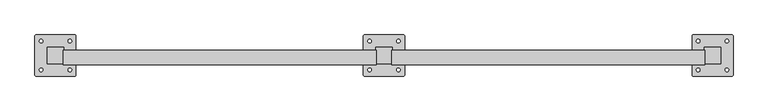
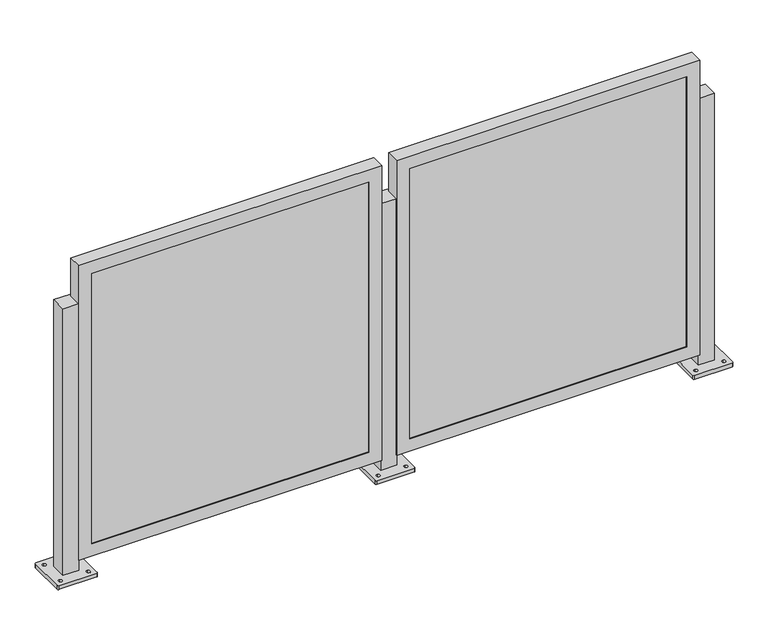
"""IFC4 building model written with IfcOpenShell, lengths in millimetres: railing geometry."""

from ifc_helpers import new_model, si_unit, frame, origin, place, context, project, spatial, polyline, circle_curve, outline, extrude, faceted_brep, source, transform, mapped, element, save
from ifc_brep_helpers import plane_surface, cylinder_surface, revolved_surface, advanced_brep


def railing_9c9bc759(model_context):
    return source(origin(), model_context, "Body", "SolidModel", [
        advanced_brep(
        [(-11292.7876539, 7781.5792637, 914.4), (-11292.7876539, 7730.7792637, 914.4), (-11241.9876539, 7730.7792637, 914.4), (-11241.9876539, 7781.5792637, 914.4), (-11330.887654, 7695.8543047, 0.0), (-11330.887654, 7816.5042227, 0.0), (-11327.7126259, 7819.6792508, 0.0), (-11207.0626819, 7819.6792508, 0.0), (-11203.8876537, 7816.5042227, 0.0), (-11203.8876537, 7695.8543047, 0.0), (-11207.0626819, 7692.6792766, 0.0), (-11327.7126259, 7692.6792766, 0.0), (-11311.8376414, 7706.173009, 0.0), (-11311.8376414, 7717.2855215, 0.0), (-11311.8376523, 7795.0730134, 0.0), (-11311.8376523, 7806.185495, 0.0), (-11222.9376404, 7706.1730106, 0.0), (-11222.9376404, 7717.2855212, 0.0), (-11222.9376514, 7795.073015, 0.0), (-11222.9376514, 7806.1854948, 0.0), (-11292.7876539, 7781.5792637, 12.7), (-11292.7876539, 7730.7792637, 12.7), (-11241.9876539, 7730.7792637, 12.7), (-11241.9876539, 7781.5792637, 12.7), (-11330.887654, 7695.8543047, 12.7), (-11327.7126259, 7692.6792766, 12.7), (-11207.0626819, 7692.6792766, 12.7), (-11203.8876537, 7695.8543047, 12.7), (-11203.8876537, 7816.5042227, 12.7), (-11207.0626819, 7819.6792508, 12.7), (-11327.7126259, 7819.6792508, 12.7), (-11330.887654, 7816.5042227, 12.7), (-11311.8376414, 7706.173009, 12.7), (-11311.8376414, 7717.2855215, 12.7), (-11311.8376523, 7795.0730134, 12.7), (-11311.8376523, 7806.185495, 12.7), (-11222.9376404, 7706.1730106, 12.7), (-11222.9376404, 7717.2855212, 12.7), (-11222.9376514, 7795.073015, 12.7), (-11222.9376514, 7806.1854948, 12.7)],
        [
            (0, 1),
            (1, 2),
            (2, 3),
            (3, 0),
            (4, 5),
            (5, 6, circle_curve(frame((-11327.7126259, 7816.5042227, 0.0), z_axis=(0.0, 0.0, -1.0), x_axis=(0.0, 1.0, 0.0)), 3.1750282)),
            (6, 7),
            (7, 8, circle_curve(frame((-11207.0626819, 7816.5042227, 0.0), z_axis=(0.0, 0.0, -1.0), x_axis=(0.0, 1.0, 0.0)), 3.1750282)),
            (8, 9),
            (9, 10, circle_curve(frame((-11207.0626819, 7695.8543047, 0.0), z_axis=(0.0, 0.0, -1.0), x_axis=(0.0, 1.0, 0.0)), 3.1750282)),
            (10, 11),
            (11, 4, circle_curve(frame((-11327.7126259, 7695.8543047, 0.0), z_axis=(0.0, 0.0, -1.0), x_axis=(0.0, 1.0, 0.0)), 3.1750282)),
            (12, 13, circle_curve(frame((-11311.8376414, 7711.7292653, 0.0), z_axis=(0.0, 0.0, 1.0), x_axis=(0.0, 1.0, 0.0)), 5.5562562)),
            (13, 12, circle_curve(frame((-11311.8376414, 7711.7292653, 0.0), z_axis=(0.0, 0.0, 1.0), x_axis=(0.0, 1.0, 0.0)), 5.5562562)),
            (14, 15, circle_curve(frame((-11311.8376523, 7800.6292542, 0.0), z_axis=(0.0, 0.0, 1.0), x_axis=(0.0, 1.0, 0.0)), 5.5562408)),
            (15, 14, circle_curve(frame((-11311.8376523, 7800.6292542, 0.0), z_axis=(0.0, 0.0, 1.0), x_axis=(0.0, 1.0, 0.0)), 5.5562408)),
            (16, 17, circle_curve(frame((-11222.9376404, 7711.7292659, 0.0), z_axis=(0.0, 0.0, 1.0), x_axis=(0.0, 1.0, 0.0)), 5.5562553)),
            (17, 16, circle_curve(frame((-11222.9376404, 7711.7292659, 0.0), z_axis=(0.0, 0.0, 1.0), x_axis=(0.0, 1.0, 0.0)), 5.5562553)),
            (18, 19, circle_curve(frame((-11222.9376514, 7800.6292549, 0.0), z_axis=(0.0, 0.0, 1.0), x_axis=(0.0, 1.0, 0.0)), 5.5562399)),
            (19, 18, circle_curve(frame((-11222.9376514, 7800.6292549, 0.0), z_axis=(0.0, 0.0, 1.0), x_axis=(0.0, 1.0, 0.0)), 5.5562399)),
            (0, 20),
            (20, 21),
            (21, 1),
            (21, 22),
            (22, 2),
            (22, 23),
            (23, 3),
            (23, 20),
            (24, 25, circle_curve(frame((-11327.7126259, 7695.8543047, 12.7), z_axis=(0.0, 0.0, 1.0), x_axis=(0.0, 1.0, 0.0)), 3.1750282)),
            (25, 26),
            (26, 27, circle_curve(frame((-11207.0626819, 7695.8543047, 12.7), z_axis=(0.0, 0.0, 1.0), x_axis=(0.0, 1.0, 0.0)), 3.1750282)),
            (27, 28),
            (28, 29, circle_curve(frame((-11207.0626819, 7816.5042227, 12.7), z_axis=(0.0, 0.0, 1.0), x_axis=(0.0, 1.0, 0.0)), 3.1750282)),
            (29, 30),
            (30, 31, circle_curve(frame((-11327.7126259, 7816.5042227, 12.7), z_axis=(0.0, 0.0, 1.0), x_axis=(0.0, 1.0, 0.0)), 3.1750282)),
            (31, 24),
            (32, 33, circle_curve(frame((-11311.8376414, 7711.7292653, 12.7), z_axis=(0.0, 0.0, -1.0), x_axis=(0.0, 1.0, 0.0)), 5.5562562)),
            (33, 32, circle_curve(frame((-11311.8376414, 7711.7292653, 12.7), z_axis=(0.0, 0.0, -1.0), x_axis=(0.0, 1.0, 0.0)), 5.5562562)),
            (34, 35, circle_curve(frame((-11311.8376523, 7800.6292542, 12.7), z_axis=(0.0, 0.0, -1.0), x_axis=(0.0, 1.0, 0.0)), 5.5562408)),
            (35, 34, circle_curve(frame((-11311.8376523, 7800.6292542, 12.7), z_axis=(0.0, 0.0, -1.0), x_axis=(0.0, 1.0, 0.0)), 5.5562408)),
            (36, 37, circle_curve(frame((-11222.9376404, 7711.7292659, 12.7), z_axis=(0.0, 0.0, -1.0), x_axis=(0.0, 1.0, 0.0)), 5.5562553)),
            (37, 36, circle_curve(frame((-11222.9376404, 7711.7292659, 12.7), z_axis=(0.0, 0.0, -1.0), x_axis=(0.0, 1.0, 0.0)), 5.5562553)),
            (38, 39, circle_curve(frame((-11222.9376514, 7800.6292549, 12.7), z_axis=(0.0, 0.0, -1.0), x_axis=(0.0, 1.0, 0.0)), 5.5562399)),
            (39, 38, circle_curve(frame((-11222.9376514, 7800.6292549, 12.7), z_axis=(0.0, 0.0, -1.0), x_axis=(0.0, 1.0, 0.0)), 5.5562399)),
            (24, 4),
            (11, 25),
            (10, 26),
            (9, 27),
            (8, 28),
            (7, 29),
            (6, 30),
            (5, 31),
            (32, 12),
            (13, 33),
            (34, 14),
            (15, 35),
            (36, 16),
            (17, 37),
            (38, 18),
            (19, 39),
        ],
        [
            plane_surface(frame((-11292.7876539, 7730.7792637, 914.4), z_axis=(0.0, 0.0, 1.0), x_axis=(0.0, -1.0, 0.0))),
            plane_surface(frame((-11292.7876539, 7730.7792637, 0.0), z_axis=(0.0, 0.0, -1.0), x_axis=(0.0, 1.0, 0.0))),
            plane_surface(frame((-11292.7876539, 7781.5792637, 914.4), z_axis=(-1.0, 0.0, 0.0), x_axis=(0.0, 0.0, -1.0))),
            plane_surface(frame((-11292.7876539, 7730.7792637, 914.4), z_axis=(0.0, -1.0, 0.0), x_axis=(0.0, 0.0, -1.0))),
            plane_surface(frame((-11241.9876539, 7730.7792637, 914.4), z_axis=(1.0, 0.0, 0.0), x_axis=(0.0, 0.0, -1.0))),
            plane_surface(frame((-11241.9876539, 7781.5792637, 914.4), z_axis=(0.0, 1.0, 0.0), x_axis=(0.0, 0.0, -1.0))),
            plane_surface(frame((-11327.7126259, 7699.0293329, 12.7), z_axis=(0.0, 0.0, 1.0), x_axis=(-1.0, 0.0, 0.0))),
            cylinder_surface(frame((-11327.7126259, 7695.8543047, 0.0), z_axis=(0.0, 0.0, 1.0), x_axis=(0.0, 1.0, 0.0)), 3.1750282),
            plane_surface(frame((-11327.7126259, 7692.6792766, 12.7), z_axis=(1.1945386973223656e-12, -1.0, 0.0), x_axis=(0.0, 0.0, -1.0))),
            cylinder_surface(frame((-11207.0626819, 7695.8543047, 0.0), z_axis=(0.0, 0.0, 1.0), x_axis=(0.0, 1.0, 0.0)), 3.1750282),
            plane_surface(frame((-11203.8876537, 7695.8543047, 12.7), z_axis=(1.0, 0.0, 0.0), x_axis=(0.0, 0.0, -1.0))),
            cylinder_surface(frame((-11207.0626819, 7816.5042227, 0.0), z_axis=(0.0, 0.0, 1.0), x_axis=(0.0, 1.0, 0.0)), 3.1750282),
            plane_surface(frame((-11207.0626819, 7819.6792508, 12.7), z_axis=(-1.1946088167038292e-12, 1.0, 0.0), x_axis=(0.0, 0.0, -1.0))),
            cylinder_surface(frame((-11327.7126259, 7816.5042227, 0.0), z_axis=(0.0, 0.0, 1.0), x_axis=(0.0, 1.0, 0.0)), 3.1750282),
            plane_surface(frame((-11330.887654, 7816.5042227, 12.7), z_axis=(-1.0, 0.0, 0.0), x_axis=(0.0, 0.0, -1.0))),
            revolved_surface(polyline([(-11311.8376414, 7717.2855215, 0.0), (-11311.8376414, 7717.2855215, 12.7)]), (-11311.8376414, 7711.7292653, 0.0), (0.0, 0.0, -1.0)),
            revolved_surface(polyline([(-11311.8376523, 7806.185495, 0.0), (-11311.8376523, 7806.185495, 12.7)]), (-11311.8376523, 7800.6292542, 0.0), (0.0, 0.0, -1.0)),
            revolved_surface(polyline([(-11222.9376404, 7717.2855212, 0.0), (-11222.9376404, 7717.2855212, 12.7)]), (-11222.9376404, 7711.7292659, 0.0), (0.0, 0.0, -1.0)),
            revolved_surface(polyline([(-11222.9376514, 7806.1854948, 0.0), (-11222.9376514, 7806.1854948, 12.7)]), (-11222.9376514, 7800.6292549, 0.0), (0.0, 0.0, -1.0)),
        ],
        [
            (0, [[1, 2, 3, 4]]),
            (1, [[5, 6, 7, 8, 9, 10, 11, 12], [13, 14], [15, 16], [17, 18], [19, 20]]),
            (2, [[-1, 21, 22, 23]]),
            (3, [[-2, -23, 24, 25]]),
            (4, [[-3, -25, 26, 27]]),
            (5, [[-4, -27, 28, -21]]),
            (6, [[29, 30, 31, 32, 33, 34, 35, 36], [-22, -28, -26, -24], [37, 38], [39, 40], [41, 42], [43, 44]]),
            (7, [[-29, 45, -12, 46]]),
            (8, [[-30, -46, -11, 47]]),
            (9, [[-31, -47, -10, 48]]),
            (10, [[-32, -48, -9, 49]]),
            (11, [[-33, -49, -8, 50]]),
            (12, [[-34, -50, -7, 51]]),
            (13, [[-35, -51, -6, 52]]),
            (14, [[-36, -52, -5, -45]]),
            (15, [[-37, 53, -14, 54]]),
            (15, [[-38, -54, -13, -53]]),
            (16, [[-39, 55, -16, 56]]),
            (16, [[-40, -56, -15, -55]]),
            (17, [[-41, 57, -18, 58]]),
            (17, [[-42, -58, -17, -57]]),
            (18, [[-43, 59, -20, 60]]),
            (18, [[-44, -60, -19, -59]]),
        ],
    ),
        faceted_brep([(-12259.1921073, 7728.0360637, 47.625), (-11290.8171073, 7728.0360637, 47.625), (-11290.8171073, 7728.0360637, 1044.575), (-12259.1921073, 7728.0360637, 1044.575), (-12217.9171073, 7728.0360637, 1003.3), (-11332.0921073, 7728.0360637, 1003.3), (-11332.0921073, 7728.0360637, 88.9), (-12217.9171073, 7728.0360637, 88.9), (-12217.9171073, 7730.7792637, 1003.3), (-12217.9171073, 7730.7792637, 88.9), (-12259.1921073, 7771.9093602, 1044.575), (-12259.1921073, 7771.9093602, 47.625), (-12256.0171073, 7771.9093602, 1041.4), (-12256.0171073, 7730.7792637, 1041.4), (-12256.0171073, 7730.7792637, 50.8), (-12256.0171073, 7771.9093602, 50.8), (-11332.0921073, 7730.7792637, 88.9), (-11290.8171073, 7771.9093602, 47.625), (-11293.9921073, 7730.7792637, 50.8), (-11293.9921073, 7771.9093602, 50.8), (-11332.0921073, 7730.7792637, 1003.3), (-11290.8171073, 7771.9093602, 1044.575), (-11293.9921073, 7730.7792637, 1041.4), (-11293.9921073, 7771.9093602, 1041.4)], [[[0, 1, 2, 3], [4, 5, 6, 7]], [[8, 4, 7, 9]], [[3, 10, 11, 0]], [[12, 13, 14, 15]], [[9, 7, 6, 16]], [[0, 11, 17, 1]], [[15, 14, 18, 19]], [[16, 6, 5, 20]], [[1, 17, 21, 2]], [[19, 18, 22, 23]], [[20, 5, 4, 8]], [[10, 21, 17, 11], [15, 19, 23, 12]], [[2, 21, 10, 3]], [[13, 22, 18, 14], [9, 16, 20, 8]], [[23, 22, 13, 12]]]),
        extrude(outline(polyline([(-12256.0171073, 7740.3042637), (-11293.9921073, 7740.3042637), (-11293.9921073, 7730.7792637), (-12256.0171073, 7730.7792637), (-12256.0171073, 7740.3042637)])), frame((0.0, 0.0, 50.8), z_axis=(0.0, 0.0, 1.0), x_axis=(1.0, 0.0, 0.0)), (0.0, 0.0, 1.0), 990.6),
        advanced_brep(
        [(-12308.7876539, 7781.5792637, 914.4), (-12308.7876539, 7730.7792637, 914.4), (-12257.9876539, 7730.7792637, 914.4), (-12257.9876539, 7781.5792637, 914.4), (-12346.887654, 7695.8543047, 0.0), (-12346.887654, 7816.5042227, 0.0), (-12343.7126259, 7819.6792508, 0.0), (-12223.0626819, 7819.6792508, 0.0), (-12219.8876537, 7816.5042227, 0.0), (-12219.8876537, 7695.8543047, 0.0), (-12223.0626819, 7692.6792766, 0.0), (-12343.7126259, 7692.6792766, 0.0), (-12327.8376414, 7706.173009, 0.0), (-12327.8376414, 7717.2855215, 0.0), (-12327.8376523, 7795.0730134, 0.0), (-12327.8376523, 7806.185495, 0.0), (-12238.9376404, 7706.1730106, 0.0), (-12238.9376404, 7717.2855212, 0.0), (-12238.9376514, 7795.073015, 0.0), (-12238.9376514, 7806.1854948, 0.0), (-12308.7876539, 7781.5792637, 12.7), (-12308.7876539, 7730.7792637, 12.7), (-12257.9876539, 7730.7792637, 12.7), (-12257.9876539, 7781.5792637, 12.7), (-12346.887654, 7695.8543047, 12.7), (-12343.7126259, 7692.6792766, 12.7), (-12223.0626819, 7692.6792766, 12.7), (-12219.8876537, 7695.8543047, 12.7), (-12219.8876537, 7816.5042227, 12.7), (-12223.0626819, 7819.6792508, 12.7), (-12343.7126259, 7819.6792508, 12.7), (-12346.887654, 7816.5042227, 12.7), (-12327.8376414, 7706.173009, 12.7), (-12327.8376414, 7717.2855215, 12.7), (-12327.8376523, 7795.0730134, 12.7), (-12327.8376523, 7806.185495, 12.7), (-12238.9376404, 7706.1730106, 12.7), (-12238.9376404, 7717.2855212, 12.7), (-12238.9376514, 7795.073015, 12.7), (-12238.9376514, 7806.1854948, 12.7)],
        [
            (0, 1),
            (1, 2),
            (2, 3),
            (3, 0),
            (4, 5),
            (5, 6, circle_curve(frame((-12343.7126259, 7816.5042227, 0.0), z_axis=(0.0, 0.0, -1.0), x_axis=(0.0, 1.0, 0.0)), 3.1750282)),
            (6, 7),
            (7, 8, circle_curve(frame((-12223.0626819, 7816.5042227, 0.0), z_axis=(0.0, 0.0, -1.0), x_axis=(0.0, 1.0, 0.0)), 3.1750282)),
            (8, 9),
            (9, 10, circle_curve(frame((-12223.0626819, 7695.8543047, 0.0), z_axis=(0.0, 0.0, -1.0), x_axis=(0.0, 1.0, 0.0)), 3.1750282)),
            (10, 11),
            (11, 4, circle_curve(frame((-12343.7126259, 7695.8543047, 0.0), z_axis=(0.0, 0.0, -1.0), x_axis=(0.0, 1.0, 0.0)), 3.1750282)),
            (12, 13, circle_curve(frame((-12327.8376414, 7711.7292653, 0.0), z_axis=(0.0, 0.0, 1.0), x_axis=(0.0, 1.0, 0.0)), 5.5562562)),
            (13, 12, circle_curve(frame((-12327.8376414, 7711.7292653, 0.0), z_axis=(0.0, 0.0, 1.0), x_axis=(0.0, 1.0, 0.0)), 5.5562562)),
            (14, 15, circle_curve(frame((-12327.8376523, 7800.6292542, 0.0), z_axis=(0.0, 0.0, 1.0), x_axis=(0.0, 1.0, 0.0)), 5.5562408)),
            (15, 14, circle_curve(frame((-12327.8376523, 7800.6292542, 0.0), z_axis=(0.0, 0.0, 1.0), x_axis=(0.0, 1.0, 0.0)), 5.5562408)),
            (16, 17, circle_curve(frame((-12238.9376404, 7711.7292659, 0.0), z_axis=(0.0, 0.0, 1.0), x_axis=(0.0, 1.0, 0.0)), 5.5562553)),
            (17, 16, circle_curve(frame((-12238.9376404, 7711.7292659, 0.0), z_axis=(0.0, 0.0, 1.0), x_axis=(0.0, 1.0, 0.0)), 5.5562553)),
            (18, 19, circle_curve(frame((-12238.9376514, 7800.6292549, 0.0), z_axis=(0.0, 0.0, 1.0), x_axis=(0.0, 1.0, 0.0)), 5.5562399)),
            (19, 18, circle_curve(frame((-12238.9376514, 7800.6292549, 0.0), z_axis=(0.0, 0.0, 1.0), x_axis=(0.0, 1.0, 0.0)), 5.5562399)),
            (0, 20),
            (20, 21),
            (21, 1),
            (21, 22),
            (22, 2),
            (22, 23),
            (23, 3),
            (23, 20),
            (24, 25, circle_curve(frame((-12343.7126259, 7695.8543047, 12.7), z_axis=(0.0, 0.0, 1.0), x_axis=(0.0, 1.0, 0.0)), 3.1750282)),
            (25, 26),
            (26, 27, circle_curve(frame((-12223.0626819, 7695.8543047, 12.7), z_axis=(0.0, 0.0, 1.0), x_axis=(0.0, 1.0, 0.0)), 3.1750282)),
            (27, 28),
            (28, 29, circle_curve(frame((-12223.0626819, 7816.5042227, 12.7), z_axis=(0.0, 0.0, 1.0), x_axis=(0.0, 1.0, 0.0)), 3.1750282)),
            (29, 30),
            (30, 31, circle_curve(frame((-12343.7126259, 7816.5042227, 12.7), z_axis=(0.0, 0.0, 1.0), x_axis=(0.0, 1.0, 0.0)), 3.1750282)),
            (31, 24),
            (32, 33, circle_curve(frame((-12327.8376414, 7711.7292653, 12.7), z_axis=(0.0, 0.0, -1.0), x_axis=(0.0, 1.0, 0.0)), 5.5562562)),
            (33, 32, circle_curve(frame((-12327.8376414, 7711.7292653, 12.7), z_axis=(0.0, 0.0, -1.0), x_axis=(0.0, 1.0, 0.0)), 5.5562562)),
            (34, 35, circle_curve(frame((-12327.8376523, 7800.6292542, 12.7), z_axis=(0.0, 0.0, -1.0), x_axis=(0.0, 1.0, 0.0)), 5.5562408)),
            (35, 34, circle_curve(frame((-12327.8376523, 7800.6292542, 12.7), z_axis=(0.0, 0.0, -1.0), x_axis=(0.0, 1.0, 0.0)), 5.5562408)),
            (36, 37, circle_curve(frame((-12238.9376404, 7711.7292659, 12.7), z_axis=(0.0, 0.0, -1.0), x_axis=(0.0, 1.0, 0.0)), 5.5562553)),
            (37, 36, circle_curve(frame((-12238.9376404, 7711.7292659, 12.7), z_axis=(0.0, 0.0, -1.0), x_axis=(0.0, 1.0, 0.0)), 5.5562553)),
            (38, 39, circle_curve(frame((-12238.9376514, 7800.6292549, 12.7), z_axis=(0.0, 0.0, -1.0), x_axis=(0.0, 1.0, 0.0)), 5.5562399)),
            (39, 38, circle_curve(frame((-12238.9376514, 7800.6292549, 12.7), z_axis=(0.0, 0.0, -1.0), x_axis=(0.0, 1.0, 0.0)), 5.5562399)),
            (24, 4),
            (11, 25),
            (10, 26),
            (9, 27),
            (8, 28),
            (7, 29),
            (6, 30),
            (5, 31),
            (32, 12),
            (13, 33),
            (34, 14),
            (15, 35),
            (36, 16),
            (17, 37),
            (38, 18),
            (19, 39),
        ],
        [
            plane_surface(frame((-12308.7876539, 7730.7792637, 914.4), z_axis=(0.0, 0.0, 1.0), x_axis=(0.0, -1.0, 0.0))),
            plane_surface(frame((-12308.7876539, 7730.7792637, 0.0), z_axis=(0.0, 0.0, -1.0), x_axis=(0.0, 1.0, 0.0))),
            plane_surface(frame((-12308.7876539, 7781.5792637, 914.4), z_axis=(-1.0, 0.0, 0.0), x_axis=(0.0, 0.0, -1.0))),
            plane_surface(frame((-12308.7876539, 7730.7792637, 914.4), z_axis=(0.0, -1.0, 0.0), x_axis=(0.0, 0.0, -1.0))),
            plane_surface(frame((-12257.9876539, 7730.7792637, 914.4), z_axis=(1.0, 0.0, 0.0), x_axis=(0.0, 0.0, -1.0))),
            plane_surface(frame((-12257.9876539, 7781.5792637, 914.4), z_axis=(0.0, 1.0, 0.0), x_axis=(0.0, 0.0, -1.0))),
            plane_surface(frame((-12343.7126259, 7699.0293329, 12.7), z_axis=(0.0, 0.0, 1.0), x_axis=(-1.0, 0.0, 0.0))),
            cylinder_surface(frame((-12343.7126259, 7695.8543047, 0.0), z_axis=(0.0, 0.0, 1.0), x_axis=(0.0, 1.0, 0.0)), 3.1750282),
            plane_surface(frame((-12343.7126259, 7692.6792766, 12.7), z_axis=(1.1945386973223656e-12, -1.0, 0.0), x_axis=(0.0, 0.0, -1.0))),
            cylinder_surface(frame((-12223.0626819, 7695.8543047, 0.0), z_axis=(0.0, 0.0, 1.0), x_axis=(0.0, 1.0, 0.0)), 3.1750282),
            plane_surface(frame((-12219.8876537, 7695.8543047, 12.7), z_axis=(1.0, 0.0, 0.0), x_axis=(0.0, 0.0, -1.0))),
            cylinder_surface(frame((-12223.0626819, 7816.5042227, 0.0), z_axis=(0.0, 0.0, 1.0), x_axis=(0.0, 1.0, 0.0)), 3.1750282),
            plane_surface(frame((-12223.0626819, 7819.6792508, 12.7), z_axis=(-1.1946088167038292e-12, 1.0, 0.0), x_axis=(0.0, 0.0, -1.0))),
            cylinder_surface(frame((-12343.7126259, 7816.5042227, 0.0), z_axis=(0.0, 0.0, 1.0), x_axis=(0.0, 1.0, 0.0)), 3.1750282),
            plane_surface(frame((-12346.887654, 7816.5042227, 12.7), z_axis=(-1.0, 0.0, 0.0), x_axis=(0.0, 0.0, -1.0))),
            revolved_surface(polyline([(-12327.8376414, 7717.2855215, 0.0), (-12327.8376414, 7717.2855215, 12.7)]), (-12327.8376414, 7711.7292653, 0.0), (0.0, 0.0, -1.0)),
            revolved_surface(polyline([(-12327.8376523, 7806.185495, 0.0), (-12327.8376523, 7806.185495, 12.7)]), (-12327.8376523, 7800.6292542, 0.0), (0.0, 0.0, -1.0)),
            revolved_surface(polyline([(-12238.9376404, 7717.2855212, 0.0), (-12238.9376404, 7717.2855212, 12.7)]), (-12238.9376404, 7711.7292659, 0.0), (0.0, 0.0, -1.0)),
            revolved_surface(polyline([(-12238.9376514, 7806.1854948, 0.0), (-12238.9376514, 7806.1854948, 12.7)]), (-12238.9376514, 7800.6292549, 0.0), (0.0, 0.0, -1.0)),
        ],
        [
            (0, [[1, 2, 3, 4]]),
            (1, [[5, 6, 7, 8, 9, 10, 11, 12], [13, 14], [15, 16], [17, 18], [19, 20]]),
            (2, [[-1, 21, 22, 23]]),
            (3, [[-2, -23, 24, 25]]),
            (4, [[-3, -25, 26, 27]]),
            (5, [[-4, -27, 28, -21]]),
            (6, [[29, 30, 31, 32, 33, 34, 35, 36], [-22, -28, -26, -24], [37, 38], [39, 40], [41, 42], [43, 44]]),
            (7, [[-29, 45, -12, 46]]),
            (8, [[-30, -46, -11, 47]]),
            (9, [[-31, -47, -10, 48]]),
            (10, [[-32, -48, -9, 49]]),
            (11, [[-33, -49, -8, 50]]),
            (12, [[-34, -50, -7, 51]]),
            (13, [[-35, -51, -6, 52]]),
            (14, [[-36, -52, -5, -45]]),
            (15, [[-37, 53, -14, 54]]),
            (15, [[-38, -54, -13, -53]]),
            (16, [[-39, 55, -16, 56]]),
            (16, [[-40, -56, -15, -55]]),
            (17, [[-41, 57, -18, 58]]),
            (17, [[-42, -58, -17, -57]]),
            (18, [[-43, 59, -20, 60]]),
            (18, [[-44, -60, -19, -59]]),
        ],
    ),
        faceted_brep([(-13275.1921073, 7728.0360637, 47.625), (-12306.8171073, 7728.0360637, 47.625), (-12306.8171073, 7728.0360637, 1044.575), (-13275.1921073, 7728.0360637, 1044.575), (-13233.9171073, 7728.0360637, 1003.3), (-12348.0921073, 7728.0360637, 1003.3), (-12348.0921073, 7728.0360637, 88.9), (-13233.9171073, 7728.0360637, 88.9), (-13233.9171073, 7730.7792637, 1003.3), (-13233.9171073, 7730.7792637, 88.9), (-13275.1921073, 7771.9093602, 1044.575), (-13275.1921073, 7771.9093602, 47.625), (-13272.0171073, 7771.9093602, 1041.4), (-13272.0171073, 7730.7792637, 1041.4), (-13272.0171073, 7730.7792637, 50.8), (-13272.0171073, 7771.9093602, 50.8), (-12348.0921073, 7730.7792637, 88.9), (-12306.8171073, 7771.9093602, 47.625), (-12309.9921073, 7730.7792637, 50.8), (-12309.9921073, 7771.9093602, 50.8), (-12348.0921073, 7730.7792637, 1003.3), (-12306.8171073, 7771.9093602, 1044.575), (-12309.9921073, 7730.7792637, 1041.4), (-12309.9921073, 7771.9093602, 1041.4)], [[[0, 1, 2, 3], [4, 5, 6, 7]], [[8, 4, 7, 9]], [[3, 10, 11, 0]], [[12, 13, 14, 15]], [[9, 7, 6, 16]], [[0, 11, 17, 1]], [[15, 14, 18, 19]], [[16, 6, 5, 20]], [[1, 17, 21, 2]], [[19, 18, 22, 23]], [[20, 5, 4, 8]], [[10, 21, 17, 11], [15, 19, 23, 12]], [[2, 21, 10, 3]], [[13, 22, 18, 14], [9, 16, 20, 8]], [[23, 22, 13, 12]]]),
        extrude(outline(polyline([(-13272.0171073, 7740.3042637), (-12309.9921073, 7740.3042637), (-12309.9921073, 7730.7792637), (-13272.0171073, 7730.7792637), (-13272.0171073, 7740.3042637)])), frame((0.0, 0.0, 50.8), z_axis=(0.0, 0.0, 1.0), x_axis=(1.0, 0.0, 0.0)), (0.0, 0.0, 1.0), 990.6),
        advanced_brep(
        [(-13324.7876539, 7781.5792637, 914.4), (-13324.7876539, 7730.7792637, 914.4), (-13273.9876539, 7730.7792637, 914.4), (-13273.9876539, 7781.5792637, 914.4), (-13362.887654, 7695.8543047, 0.0), (-13362.887654, 7816.5042227, 0.0), (-13359.7126259, 7819.6792508, 0.0), (-13239.0626819, 7819.6792508, 0.0), (-13235.8876537, 7816.5042227, 0.0), (-13235.8876537, 7695.8543047, 0.0), (-13239.0626819, 7692.6792766, 0.0), (-13359.7126259, 7692.6792766, 0.0), (-13343.8376414, 7706.173009, 0.0), (-13343.8376414, 7717.2855215, 0.0), (-13343.8376523, 7795.0730134, 0.0), (-13343.8376523, 7806.185495, 0.0), (-13254.9376404, 7706.1730106, 0.0), (-13254.9376404, 7717.2855212, 0.0), (-13254.9376514, 7795.073015, 0.0), (-13254.9376514, 7806.1854948, 0.0), (-13324.7876539, 7781.5792637, 12.7), (-13324.7876539, 7730.7792637, 12.7), (-13273.9876539, 7730.7792637, 12.7), (-13273.9876539, 7781.5792637, 12.7), (-13362.887654, 7695.8543047, 12.7), (-13359.7126259, 7692.6792766, 12.7), (-13239.0626819, 7692.6792766, 12.7), (-13235.8876537, 7695.8543047, 12.7), (-13235.8876537, 7816.5042227, 12.7), (-13239.0626819, 7819.6792508, 12.7), (-13359.7126259, 7819.6792508, 12.7), (-13362.887654, 7816.5042227, 12.7), (-13343.8376414, 7706.173009, 12.7), (-13343.8376414, 7717.2855215, 12.7), (-13343.8376523, 7795.0730134, 12.7), (-13343.8376523, 7806.185495, 12.7), (-13254.9376404, 7706.1730106, 12.7), (-13254.9376404, 7717.2855212, 12.7), (-13254.9376514, 7795.073015, 12.7), (-13254.9376514, 7806.1854948, 12.7)],
        [
            (0, 1),
            (1, 2),
            (2, 3),
            (3, 0),
            (4, 5),
            (5, 6, circle_curve(frame((-13359.7126259, 7816.5042227, 0.0), z_axis=(0.0, 0.0, -1.0), x_axis=(0.0, 1.0, 0.0)), 3.1750282)),
            (6, 7),
            (7, 8, circle_curve(frame((-13239.0626819, 7816.5042227, 0.0), z_axis=(0.0, 0.0, -1.0), x_axis=(0.0, 1.0, 0.0)), 3.1750282)),
            (8, 9),
            (9, 10, circle_curve(frame((-13239.0626819, 7695.8543047, 0.0), z_axis=(0.0, 0.0, -1.0), x_axis=(0.0, 1.0, 0.0)), 3.1750282)),
            (10, 11),
            (11, 4, circle_curve(frame((-13359.7126259, 7695.8543047, 0.0), z_axis=(0.0, 0.0, -1.0), x_axis=(0.0, 1.0, 0.0)), 3.1750282)),
            (12, 13, circle_curve(frame((-13343.8376414, 7711.7292653, 0.0), z_axis=(0.0, 0.0, 1.0), x_axis=(0.0, 1.0, 0.0)), 5.5562562)),
            (13, 12, circle_curve(frame((-13343.8376414, 7711.7292653, 0.0), z_axis=(0.0, 0.0, 1.0), x_axis=(0.0, 1.0, 0.0)), 5.5562562)),
            (14, 15, circle_curve(frame((-13343.8376523, 7800.6292542, 0.0), z_axis=(0.0, 0.0, 1.0), x_axis=(0.0, 1.0, 0.0)), 5.5562408)),
            (15, 14, circle_curve(frame((-13343.8376523, 7800.6292542, 0.0), z_axis=(0.0, 0.0, 1.0), x_axis=(0.0, 1.0, 0.0)), 5.5562408)),
            (16, 17, circle_curve(frame((-13254.9376404, 7711.7292659, 0.0), z_axis=(0.0, 0.0, 1.0), x_axis=(0.0, 1.0, 0.0)), 5.5562553)),
            (17, 16, circle_curve(frame((-13254.9376404, 7711.7292659, 0.0), z_axis=(0.0, 0.0, 1.0), x_axis=(0.0, 1.0, 0.0)), 5.5562553)),
            (18, 19, circle_curve(frame((-13254.9376514, 7800.6292549, 0.0), z_axis=(0.0, 0.0, 1.0), x_axis=(0.0, 1.0, 0.0)), 5.5562399)),
            (19, 18, circle_curve(frame((-13254.9376514, 7800.6292549, 0.0), z_axis=(0.0, 0.0, 1.0), x_axis=(0.0, 1.0, 0.0)), 5.5562399)),
            (0, 20),
            (20, 21),
            (21, 1),
            (21, 22),
            (22, 2),
            (22, 23),
            (23, 3),
            (23, 20),
            (24, 25, circle_curve(frame((-13359.7126259, 7695.8543047, 12.7), z_axis=(0.0, 0.0, 1.0), x_axis=(0.0, 1.0, 0.0)), 3.1750282)),
            (25, 26),
            (26, 27, circle_curve(frame((-13239.0626819, 7695.8543047, 12.7), z_axis=(0.0, 0.0, 1.0), x_axis=(0.0, 1.0, 0.0)), 3.1750282)),
            (27, 28),
            (28, 29, circle_curve(frame((-13239.0626819, 7816.5042227, 12.7), z_axis=(0.0, 0.0, 1.0), x_axis=(0.0, 1.0, 0.0)), 3.1750282)),
            (29, 30),
            (30, 31, circle_curve(frame((-13359.7126259, 7816.5042227, 12.7), z_axis=(0.0, 0.0, 1.0), x_axis=(0.0, 1.0, 0.0)), 3.1750282)),
            (31, 24),
            (32, 33, circle_curve(frame((-13343.8376414, 7711.7292653, 12.7), z_axis=(0.0, 0.0, -1.0), x_axis=(0.0, 1.0, 0.0)), 5.5562562)),
            (33, 32, circle_curve(frame((-13343.8376414, 7711.7292653, 12.7), z_axis=(0.0, 0.0, -1.0), x_axis=(0.0, 1.0, 0.0)), 5.5562562)),
            (34, 35, circle_curve(frame((-13343.8376523, 7800.6292542, 12.7), z_axis=(0.0, 0.0, -1.0), x_axis=(0.0, 1.0, 0.0)), 5.5562408)),
            (35, 34, circle_curve(frame((-13343.8376523, 7800.6292542, 12.7), z_axis=(0.0, 0.0, -1.0), x_axis=(0.0, 1.0, 0.0)), 5.5562408)),
            (36, 37, circle_curve(frame((-13254.9376404, 7711.7292659, 12.7), z_axis=(0.0, 0.0, -1.0), x_axis=(0.0, 1.0, 0.0)), 5.5562553)),
            (37, 36, circle_curve(frame((-13254.9376404, 7711.7292659, 12.7), z_axis=(0.0, 0.0, -1.0), x_axis=(0.0, 1.0, 0.0)), 5.5562553)),
            (38, 39, circle_curve(frame((-13254.9376514, 7800.6292549, 12.7), z_axis=(0.0, 0.0, -1.0), x_axis=(0.0, 1.0, 0.0)), 5.5562399)),
            (39, 38, circle_curve(frame((-13254.9376514, 7800.6292549, 12.7), z_axis=(0.0, 0.0, -1.0), x_axis=(0.0, 1.0, 0.0)), 5.5562399)),
            (24, 4),
            (11, 25),
            (10, 26),
            (9, 27),
            (8, 28),
            (7, 29),
            (6, 30),
            (5, 31),
            (32, 12),
            (13, 33),
            (34, 14),
            (15, 35),
            (36, 16),
            (17, 37),
            (38, 18),
            (19, 39),
        ],
        [
            plane_surface(frame((-13324.7876539, 7730.7792637, 914.4), z_axis=(0.0, 0.0, 1.0), x_axis=(0.0, -1.0, 0.0))),
            plane_surface(frame((-13324.7876539, 7730.7792637, 0.0), z_axis=(0.0, 0.0, -1.0), x_axis=(0.0, 1.0, 0.0))),
            plane_surface(frame((-13324.7876539, 7781.5792637, 914.4), z_axis=(-1.0, 0.0, 0.0), x_axis=(0.0, 0.0, -1.0))),
            plane_surface(frame((-13324.7876539, 7730.7792637, 914.4), z_axis=(0.0, -1.0, 0.0), x_axis=(0.0, 0.0, -1.0))),
            plane_surface(frame((-13273.9876539, 7730.7792637, 914.4), z_axis=(1.0, 0.0, 0.0), x_axis=(0.0, 0.0, -1.0))),
            plane_surface(frame((-13273.9876539, 7781.5792637, 914.4), z_axis=(0.0, 1.0, 0.0), x_axis=(0.0, 0.0, -1.0))),
            plane_surface(frame((-13359.7126259, 7699.0293329, 12.7), z_axis=(0.0, 0.0, 1.0), x_axis=(-1.0, 0.0, 0.0))),
            cylinder_surface(frame((-13359.7126259, 7695.8543047, 0.0), z_axis=(0.0, 0.0, 1.0), x_axis=(0.0, 1.0, 0.0)), 3.1750282),
            plane_surface(frame((-13359.7126259, 7692.6792766, 12.7), z_axis=(1.1945386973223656e-12, -1.0, 0.0), x_axis=(0.0, 0.0, -1.0))),
            cylinder_surface(frame((-13239.0626819, 7695.8543047, 0.0), z_axis=(0.0, 0.0, 1.0), x_axis=(0.0, 1.0, 0.0)), 3.1750282),
            plane_surface(frame((-13235.8876537, 7695.8543047, 12.7), z_axis=(1.0, 0.0, 0.0), x_axis=(0.0, 0.0, -1.0))),
            cylinder_surface(frame((-13239.0626819, 7816.5042227, 0.0), z_axis=(0.0, 0.0, 1.0), x_axis=(0.0, 1.0, 0.0)), 3.1750282),
            plane_surface(frame((-13239.0626819, 7819.6792508, 12.7), z_axis=(-1.1946088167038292e-12, 1.0, 0.0), x_axis=(0.0, 0.0, -1.0))),
            cylinder_surface(frame((-13359.7126259, 7816.5042227, 0.0), z_axis=(0.0, 0.0, 1.0), x_axis=(0.0, 1.0, 0.0)), 3.1750282),
            plane_surface(frame((-13362.887654, 7816.5042227, 12.7), z_axis=(-1.0, 0.0, 0.0), x_axis=(0.0, 0.0, -1.0))),
            revolved_surface(polyline([(-13343.8376414, 7717.2855215, 0.0), (-13343.8376414, 7717.2855215, 12.7)]), (-13343.8376414, 7711.7292653, 0.0), (0.0, 0.0, -1.0)),
            revolved_surface(polyline([(-13343.8376523, 7806.185495, 0.0), (-13343.8376523, 7806.185495, 12.7)]), (-13343.8376523, 7800.6292542, 0.0), (0.0, 0.0, -1.0)),
            revolved_surface(polyline([(-13254.9376404, 7717.2855212, 0.0), (-13254.9376404, 7717.2855212, 12.7)]), (-13254.9376404, 7711.7292659, 0.0), (0.0, 0.0, -1.0)),
            revolved_surface(polyline([(-13254.9376514, 7806.1854948, 0.0), (-13254.9376514, 7806.1854948, 12.7)]), (-13254.9376514, 7800.6292549, 0.0), (0.0, 0.0, -1.0)),
        ],
        [
            (0, [[1, 2, 3, 4]]),
            (1, [[5, 6, 7, 8, 9, 10, 11, 12], [13, 14], [15, 16], [17, 18], [19, 20]]),
            (2, [[-1, 21, 22, 23]]),
            (3, [[-2, -23, 24, 25]]),
            (4, [[-3, -25, 26, 27]]),
            (5, [[-4, -27, 28, -21]]),
            (6, [[29, 30, 31, 32, 33, 34, 35, 36], [-22, -28, -26, -24], [37, 38], [39, 40], [41, 42], [43, 44]]),
            (7, [[-29, 45, -12, 46]]),
            (8, [[-30, -46, -11, 47]]),
            (9, [[-31, -47, -10, 48]]),
            (10, [[-32, -48, -9, 49]]),
            (11, [[-33, -49, -8, 50]]),
            (12, [[-34, -50, -7, 51]]),
            (13, [[-35, -51, -6, 52]]),
            (14, [[-36, -52, -5, -45]]),
            (15, [[-37, 53, -14, 54]]),
            (15, [[-38, -54, -13, -53]]),
            (16, [[-39, 55, -16, 56]]),
            (16, [[-40, -56, -15, -55]]),
            (17, [[-41, 57, -18, 58]]),
            (17, [[-42, -58, -17, -57]]),
            (18, [[-43, 59, -20, 60]]),
            (18, [[-44, -60, -19, -59]]),
        ],
    ),
    ])


if __name__ == "__main__":
    model = new_model("IFC4")
    model_context = context("Model", 3, world=origin())
    ifc_project = project(units=[si_unit("LENGTHUNIT", "METRE", prefix="MILLI")], contexts=[model_context])
    site = spatial("IfcSite", under=ifc_project)
    building = spatial("IfcBuilding", under=site)
    placement = place(None, origin())
    railing_shape = railing_9c9bc759(model_context)
    element("IfcRailing", 1, ObjectType="Railing - Amico Architectural - Perforated Railing - 9/16\" Circle - 11/16\" Staggered", at=placement, inside=building, context=model_context, shape_type="MappedRepresentation", body=[
        mapped(railing_shape, transform((0.0, 0.0, 0.0), x_axis=(1.0, 0.0, 0.0), y_axis=(0.0, 1.0, 0.0), z_axis=(0.0, 0.0, 1.0))),
    ])
    save(model, "model.ifc")
